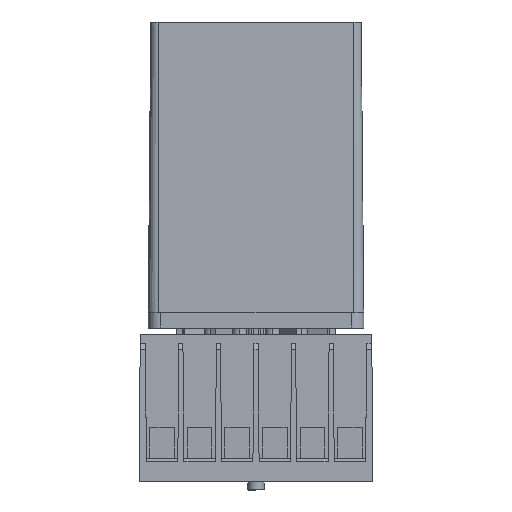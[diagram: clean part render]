
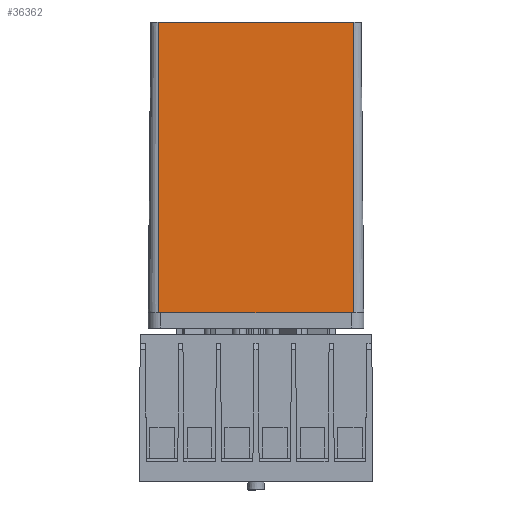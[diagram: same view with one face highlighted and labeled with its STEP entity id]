
A CAD part, front view. The second image highlights one B-rep face of the part: STEP entity #36362.
In plain terms, the highlighted planar face has unit normal (0, -1, 0.009).
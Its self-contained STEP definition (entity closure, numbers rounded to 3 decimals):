
#1893 = VECTOR ( 'NONE', #2608, 1000. ) ;
#2608 = DIRECTION ( 'NONE',  ( 1., 0., 0. ) ) ;
#2640 = CARTESIAN_POINT ( 'NONE',  ( 3.5, 20., 28.8 ) ) ;
#2979 = EDGE_CURVE ( 'NONE', #8602, #41599, #52990, .T. ) ;
#4884 = EDGE_CURVE ( 'NONE', #28790, #9086, #35411, .T. ) ;
#7496 = CARTESIAN_POINT ( 'NONE',  ( 34.9, 20.412, 76. ) ) ;
#7694 = VECTOR ( 'NONE', #49722, 1000. ) ;
#8275 = DIRECTION ( 'NONE',  ( 1., 0., 0. ) ) ;
#8602 = VERTEX_POINT ( 'NONE', #24524 ) ;
#9086 = VERTEX_POINT ( 'NONE', #58122 ) ;
#9703 = ORIENTED_EDGE ( 'NONE', *, *, #39810, .F. ) ;
#11162 = VERTEX_POINT ( 'NONE', #2640 ) ;
#11281 = CARTESIAN_POINT ( 'NONE',  ( 34.9, 20., 28.8 ) ) ;
#11926 = ORIENTED_EDGE ( 'NONE', *, *, #23296, .T. ) ;
#12040 = CARTESIAN_POINT ( 'NONE',  ( 3.1, 20., 28.8 ) ) ;
#14245 = DIRECTION ( 'NONE',  ( 0., -0.009, -1. ) ) ;
#15891 = VECTOR ( 'NONE', #31111, 1000. ) ;
#16341 = LINE ( 'NONE', #31243, #54549 ) ;
#17333 = CARTESIAN_POINT ( 'NONE',  ( 34.5, 20., 28.8 ) ) ;
#17438 = EDGE_CURVE ( 'NONE', #41599, #11162, #31475, .T. ) ;
#17953 = LINE ( 'NONE', #42978, #58829 ) ;
#23296 = EDGE_CURVE ( 'NONE', #46453, #9086, #32344, .T. ) ;
#24524 = CARTESIAN_POINT ( 'NONE',  ( 3.1, 20.412, 76. ) ) ;
#26733 = CARTESIAN_POINT ( 'NONE',  ( 3.1, 20., 28.8 ) ) ;
#27692 = ORIENTED_EDGE ( 'NONE', *, *, #29096, .T. ) ;
#27801 = FACE_OUTER_BOUND ( 'NONE', #45549, .T. ) ;
#28790 = VERTEX_POINT ( 'NONE', #7496 ) ;
#29047 = DIRECTION ( 'NONE',  ( 0., -0.009, -1. ) ) ;
#29096 = EDGE_CURVE ( 'NONE', #11162, #46453, #16341, .T. ) ;
#31111 = DIRECTION ( 'NONE',  ( 1., 0., 0. ) ) ;
#31243 = CARTESIAN_POINT ( 'NONE',  ( 19., 20., 28.8 ) ) ;
#31475 = LINE ( 'NONE', #26733, #1893 ) ;
#32344 = LINE ( 'NONE', #12040, #15891 ) ;
#35411 = LINE ( 'NONE', #11281, #7694 ) ;
#35802 = CARTESIAN_POINT ( 'NONE',  ( 3.1, 20., 28.8 ) ) ;
#36362 = ADVANCED_FACE ( 'NONE', ( #27801 ), #38905, .T. ) ;
#36905 = ORIENTED_EDGE ( 'NONE', *, *, #2979, .T. ) ;
#38905 = PLANE ( 'NONE',  #56973 ) ;
#39810 = EDGE_CURVE ( 'NONE', #8602, #28790, #17953, .T. ) ;
#41599 = VERTEX_POINT ( 'NONE', #35802 ) ;
#42203 = ORIENTED_EDGE ( 'NONE', *, *, #17438, .T. ) ;
#42347 = DIRECTION ( 'NONE',  ( 1., 0., 0. ) ) ;
#42978 = CARTESIAN_POINT ( 'NONE',  ( 3.1, 20.412, 76. ) ) ;
#43641 = CARTESIAN_POINT ( 'NONE',  ( 3.1, 20., 28.8 ) ) ;
#45549 = EDGE_LOOP ( 'NONE', ( #42203, #27692, #11926, #51382, #9703, #36905 ) ) ;
#46453 = VERTEX_POINT ( 'NONE', #17333 ) ;
#49722 = DIRECTION ( 'NONE',  ( 0., -0.009, -1. ) ) ;
#51382 = ORIENTED_EDGE ( 'NONE', *, *, #4884, .F. ) ;
#52990 = LINE ( 'NONE', #57799, #56877 ) ;
#54549 = VECTOR ( 'NONE', #8275, 1000. ) ;
#56877 = VECTOR ( 'NONE', #14245, 1000. ) ;
#56973 = AXIS2_PLACEMENT_3D ( 'NONE', #43641, #62505, #29047 ) ;
#57799 = CARTESIAN_POINT ( 'NONE',  ( 3.1, 20., 28.8 ) ) ;
#58122 = CARTESIAN_POINT ( 'NONE',  ( 34.9, 20., 28.8 ) ) ;
#58829 = VECTOR ( 'NONE', #42347, 1000. ) ;
#62505 = DIRECTION ( 'NONE',  ( 0., -1., 0.009 ) ) ;
